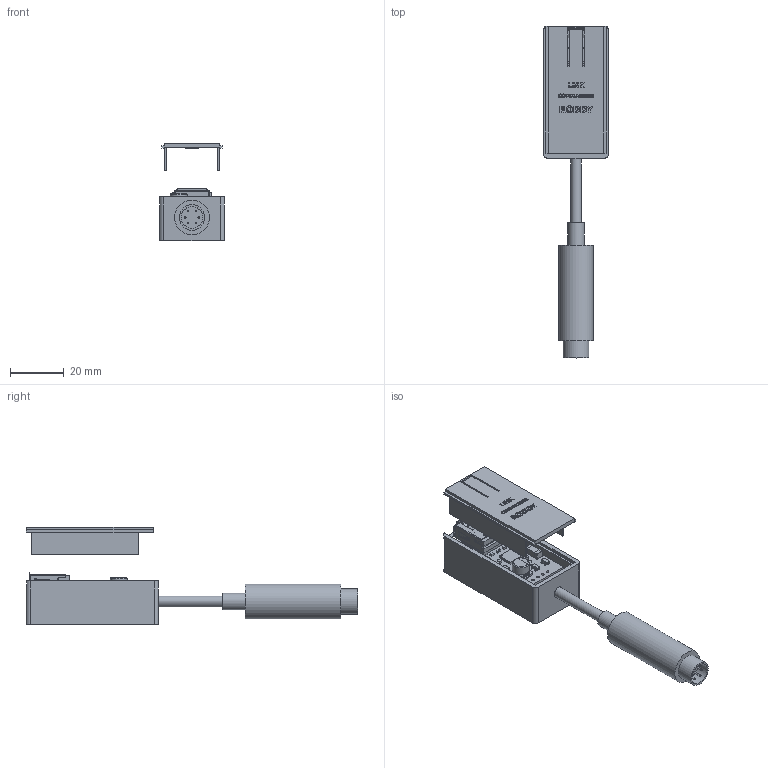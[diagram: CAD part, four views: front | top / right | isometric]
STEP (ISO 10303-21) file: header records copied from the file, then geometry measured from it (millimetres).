
FILE_DESCRIPTION(('Open CASCADE Model'),'2;1');
FILE_NAME('Open CASCADE Shape Model','2026-11-04T10:48:29',('Author'),( 'Open CASCADE'),'Open CASCADE STEP processor 7.9','Open CASCADE 7.9' ,'Unknown');
FILE_SCHEMA(('AUTOMOTIVE_DESIGN { 1 0 10303 214 1 1 1 1 }'));
Length unit declared in the file: millimetre
Products named in the file (48): dongle-cable_exploded; base; lid; electronics_0; electronics_1; electronics_2; electronics_3; electronics_4; electronics_5; electronics_6; electronics_7; electronics_8; electronics_9; electronics_10; electronics_11; electronics_12; electronics_13; electronics_14; electronics_15; electronics_16; electronics_17; electronics_18; electronics_19; electronics_20; electronics_21; electronics_22; electronics_23; electronics_24; electronics_25; electronics_26; electronics_27; electronics_28; electronics_29; electronics_30; electronics_31; electronics_32; electronics_33; cable_0; plug_body_0; plug_strain_relief_0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
Assembly tree (47 placements, depth 2):
  dongle-cable_exploded
    base
    lid
    electronics_0
    electronics_1
    electronics_2
    electronics_3
    electronics_4
    electronics_5
    electronics_6
    electronics_7
    electronics_8
    electronics_9
    electronics_10
    electronics_11
    electronics_12
    electronics_13
    electronics_14
    electronics_15
    electronics_16
    electronics_17
    electronics_18
    electronics_19
    electronics_20
    electronics_21
    electronics_22
    electronics_23
    electronics_24
    electronics_25
    electronics_26
    electronics_27
    electronics_28
    electronics_29
    electronics_30
    electronics_31
    electronics_32
    electronics_33
    cable_0
    plug_body_0
    plug_strain_relief_0
    plug_shell_0
    plug_insulator_0
    plug_pin_0_0
    plug_pin_0_1
    plug_pin_0_2
    plug_pin_0_3
    plug_pin_0_4
    plug_pin_0_5
Bounding box: 24.2 x 123.8 x 36.4 mm (x, y, z)
Volume: 15223.5 mm3; surface area: 18087.1 mm2
Topology: 47 solids, 47 shells, 1931 faces, 4889 edges, 3109 vertices
Faces by surface type: plane 1290, cylinder 342, bspline 186, extrusion 108, torus 4, revolution 1
Full cylindrical faces by diameter (mm): 0.5 x1, 0.6 x6, 0.95 x4, 1 x4, 2.3 x2, 4 x1, 4.4 x1, 6.2 x1, 6.3 x2, 8 x1, 8.2 x1, 9.5 x1, 13 x1
Entity records: 130432 total; most frequent: CARTESIAN_POINT 34389, DIRECTION 16373, VECTOR 11272, LINE 11164, ORIENTED_EDGE 9778, PCURVE 9778, DEFINITIONAL_REPRESENTATION 9778, EDGE_CURVE 4889
